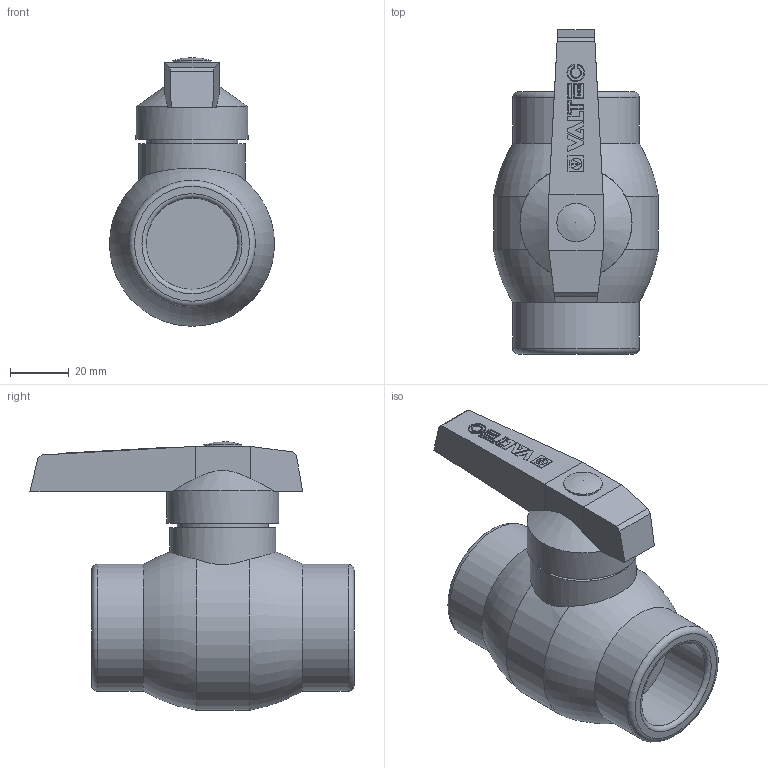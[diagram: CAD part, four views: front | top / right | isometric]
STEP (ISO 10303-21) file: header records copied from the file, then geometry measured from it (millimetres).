
FILE_DESCRIPTION(('STEP AP242'), '1');
FILE_NAME('VTp.744.0.032', '', ('UNSPECIFIED'), ('UNSPECIFIED'), 'C3D Converter', 'C3D Toolkit', '');
FILE_SCHEMA(('AP242_MANAGED_MODEL_BASED_3D_ENGINEERING_MIM_LF { 1 0 10303 442 1 1 4 }'));
Length unit declared in the file: millimetre
Bounding box: 55.95 x 109.9 x 91.1 mm (x, y, z)
Volume: 182172.9 mm3; surface area: 28004.4 mm2
Topology: 1 solids, 1 shells, 138 faces, 343 edges, 225 vertices
Faces by surface type: plane 115, cylinder 14, torus 6, cone 2, sphere 1
Full cylindrical faces by diameter (mm): 13 x1, 30.977 x2, 31 x1, 36 x1, 38 x1, 43 x2
Entity records: 4481 total; most frequent: CARTESIAN_POINT 1241, ORIENTED_EDGE 654, DIRECTION 611, EDGE_CURVE 327, LINE 279, VECTOR 279, VERTEX_POINT 224, EDGE_LOOP 171
